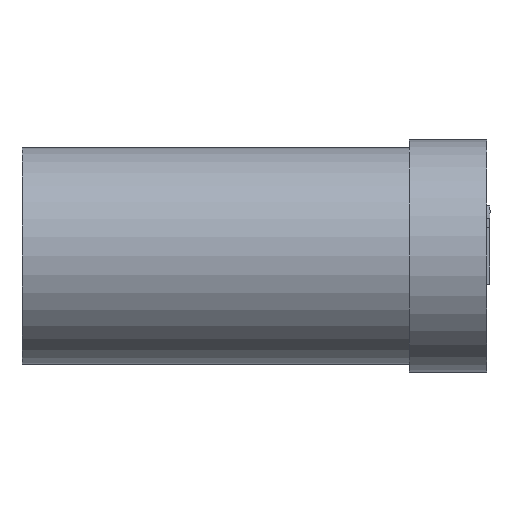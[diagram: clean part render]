
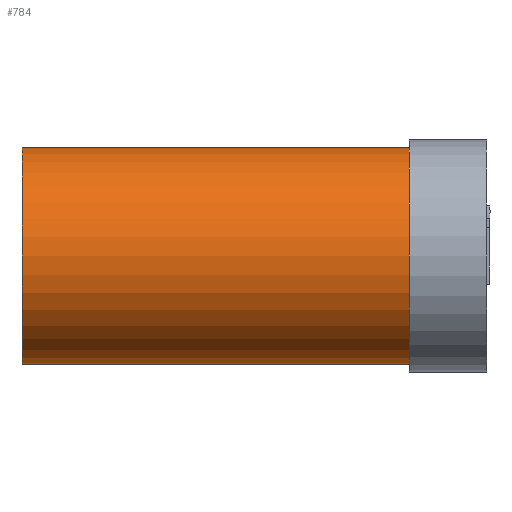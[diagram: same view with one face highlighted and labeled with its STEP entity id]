
A CAD part, left-side view. The second image highlights one B-rep face of the part: STEP entity #784.
In plain terms, the highlighted cylindrical face has radius 7 mm (diameter 14 mm), a partial arc.
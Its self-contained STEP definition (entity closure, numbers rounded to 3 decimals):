
#3 = DIRECTION ( 'NONE',  ( 0., 0., -1. ) ) ;
#10 = CARTESIAN_POINT ( 'NONE',  ( 0., -10., -7. ) ) ;
#27 = EDGE_CURVE ( 'NONE', #803, #875, #155, .T. ) ;
#32 = VERTEX_POINT ( 'NONE', #983 ) ;
#39 = CYLINDRICAL_SURFACE ( 'NONE', #665, 7. ) ;
#155 = CIRCLE ( 'NONE', #302, 7. ) ;
#162 = CARTESIAN_POINT ( 'NONE',  ( 0., 10., 0. ) ) ;
#163 = CARTESIAN_POINT ( 'NONE',  ( 0., 10., 7. ) ) ;
#221 = LINE ( 'NONE', #163, #643 ) ;
#228 = EDGE_CURVE ( 'NONE', #656, #875, #221, .T. ) ;
#279 = DIRECTION ( 'NONE',  ( 0., 0., -1. ) ) ;
#281 = DIRECTION ( 'NONE',  ( 0., -1., 0. ) ) ;
#284 = FACE_OUTER_BOUND ( 'NONE', #735, .T. ) ;
#302 = AXIS2_PLACEMENT_3D ( 'NONE', #887, #530, #279 ) ;
#327 = ORIENTED_EDGE ( 'NONE', *, *, #1115, .T. ) ;
#348 = CARTESIAN_POINT ( 'NONE',  ( 0., 15., 7. ) ) ;
#389 = EDGE_CURVE ( 'NONE', #656, #32, #1085, .T. ) ;
#523 = CARTESIAN_POINT ( 'NONE',  ( 0., 10., -7. ) ) ;
#530 = DIRECTION ( 'NONE',  ( 0., 1., 0. ) ) ;
#643 = VECTOR ( 'NONE', #1114, 1000. ) ;
#656 = VERTEX_POINT ( 'NONE', #348 ) ;
#665 = AXIS2_PLACEMENT_3D ( 'NONE', #162, #708, #3 ) ;
#700 = ORIENTED_EDGE ( 'NONE', *, *, #389, .T. ) ;
#708 = DIRECTION ( 'NONE',  ( 0., -1., 0. ) ) ;
#725 = AXIS2_PLACEMENT_3D ( 'NONE', #726, #909, #729 ) ;
#726 = CARTESIAN_POINT ( 'NONE',  ( 0., 15., 0. ) ) ;
#729 = DIRECTION ( 'NONE',  ( 0., 0., 1. ) ) ;
#735 = EDGE_LOOP ( 'NONE', ( #1005, #700, #327, #873 ) ) ;
#784 = ADVANCED_FACE ( 'NONE', ( #284 ), #39, .T. ) ;
#803 = VERTEX_POINT ( 'NONE', #10 ) ;
#832 = LINE ( 'NONE', #523, #986 ) ;
#873 = ORIENTED_EDGE ( 'NONE', *, *, #27, .T. ) ;
#875 = VERTEX_POINT ( 'NONE', #1053 ) ;
#887 = CARTESIAN_POINT ( 'NONE',  ( 0., -10., 0. ) ) ;
#909 = DIRECTION ( 'NONE',  ( 0., -1., 0. ) ) ;
#983 = CARTESIAN_POINT ( 'NONE',  ( 0., 15., -7. ) ) ;
#986 = VECTOR ( 'NONE', #281, 1000. ) ;
#1005 = ORIENTED_EDGE ( 'NONE', *, *, #228, .F. ) ;
#1053 = CARTESIAN_POINT ( 'NONE',  ( 0., -10., 7. ) ) ;
#1085 = CIRCLE ( 'NONE', #725, 7. ) ;
#1114 = DIRECTION ( 'NONE',  ( 0., -1., 0. ) ) ;
#1115 = EDGE_CURVE ( 'NONE', #32, #803, #832, .T. ) ;
